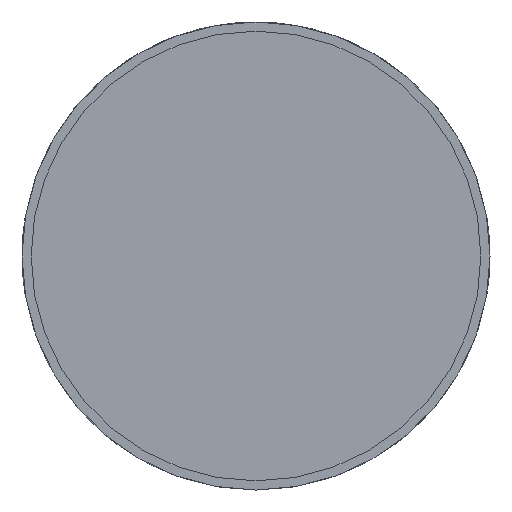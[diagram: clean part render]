
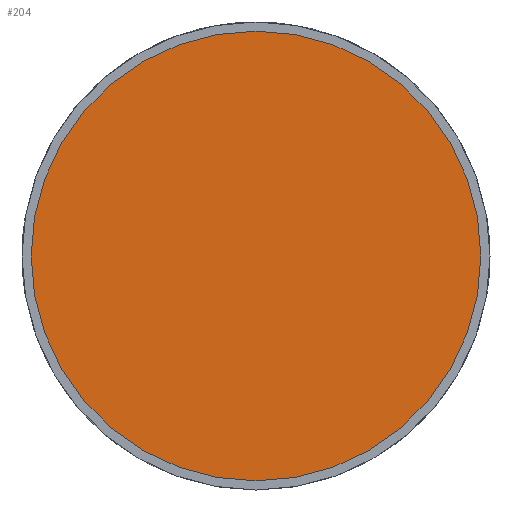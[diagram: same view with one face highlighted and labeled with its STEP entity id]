
A CAD part, front view. The second image highlights one B-rep face of the part: STEP entity #204.
In plain terms, the highlighted planar face has unit normal (0, -1, 0).
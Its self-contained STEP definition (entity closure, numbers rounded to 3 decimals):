
#171 = FACE_OUTER_BOUND ( 'NONE', #554, .T. ) ;
#204 = ADVANCED_FACE ( 'NONE', ( #171 ), #1109, .F. ) ;
#554 = EDGE_LOOP ( 'NONE', ( #1006 ) ) ;
#582 = CARTESIAN_POINT ( 'NONE',  ( 0., 0., 0. ) ) ;
#689 = AXIS2_PLACEMENT_3D ( 'NONE', #582, #2729, #840 ) ;
#840 = DIRECTION ( 'NONE',  ( 0., 0., -1. ) ) ;
#1006 = ORIENTED_EDGE ( 'NONE', *, *, #1616, .T. ) ;
#1109 = PLANE ( 'NONE',  #2952 ) ;
#1397 = VERTEX_POINT ( 'NONE', #1542 ) ;
#1542 = CARTESIAN_POINT ( 'NONE',  ( 0., 0., -49. ) ) ;
#1616 = EDGE_CURVE ( 'NONE', #1397, #1397, #2270, .T. ) ;
#1672 = CARTESIAN_POINT ( 'NONE',  ( -49., 0., 0. ) ) ;
#2049 = DIRECTION ( 'NONE',  ( 0., 1., 0. ) ) ;
#2270 = CIRCLE ( 'NONE', #689, 49. ) ;
#2619 = DIRECTION ( 'NONE',  ( 0., 0., 1. ) ) ;
#2729 = DIRECTION ( 'NONE',  ( 0., -1., 0. ) ) ;
#2952 = AXIS2_PLACEMENT_3D ( 'NONE', #1672, #2049, #2619 ) ;
